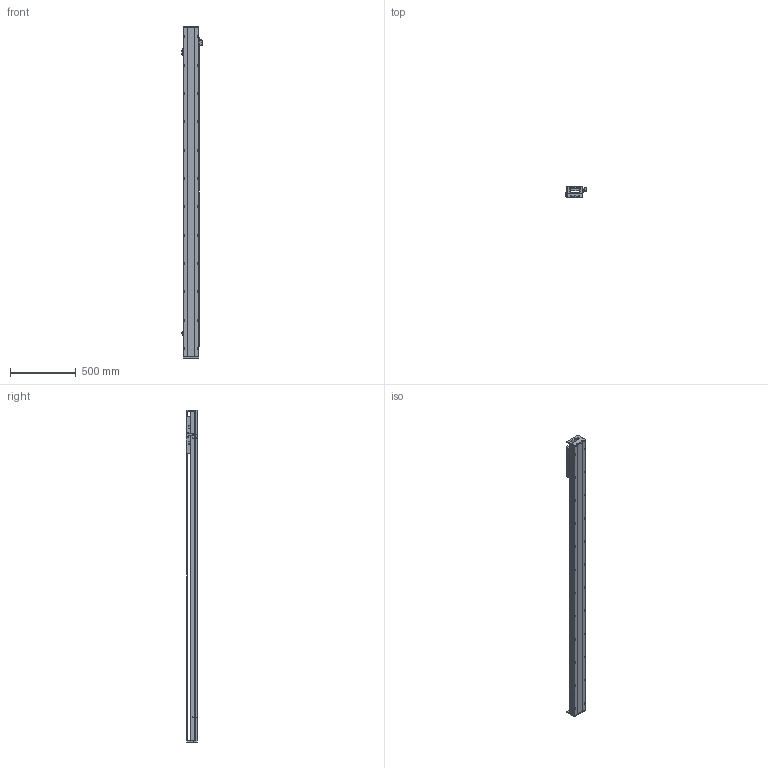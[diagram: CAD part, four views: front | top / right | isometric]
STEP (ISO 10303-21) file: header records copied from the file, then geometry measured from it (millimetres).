
FILE_DESCRIPTION (( 'STEP AP203' ), '1' );
FILE_NAME ('SKR12S-C2-S2152（简）.STEP', '2022-09-26T05:38:26', ( '' ), ( '' ), 'SwSTEP 2.0', 'SolidWorks 2018', '' );
FILE_SCHEMA (( 'CONFIG_CONTROL_DESIGN' ));
Length unit declared in the file: millimetre
Products named in the file (8): SKR12耜啣; SKR12S-C2-S2152（简）; SIKO棠掑; SKR12滑台-280L（简）; EE-SX672; 棠掑假蚾輸; SKR12菁釱-C2-S2152(潠); 覜茼え
Assembly tree (10 placements, depth 2):
  SKR12S-C2-S2152（简）
    SKR12菁釱-C2-S2152(潠)
    SKR12滑台-280L（简）
    SKR12耜啣  x2
    棠掑假蚾輸
    SIKO棠掑
    EE-SX672  x3
    覜茼え
Bounding box: 162.7 x 87.3 x 2532 mm (x, y, z)
Volume: 11095109.3 mm3; surface area: 1729532.4 mm2
Topology: 11 solids, 11 shells, 1140 faces, 3059 edges, 1929 vertices
Faces by surface type: cylinder 558, plane 424, cone 158
Entity records: 32373 total; most frequent: CARTESIAN_POINT 7099, DIRECTION 5207, ORIENTED_EDGE 5034, EDGE_CURVE 2517, AXIS2_PLACEMENT_3D 1949, VERTEX_POINT 1633, LINE 1309, VECTOR 1309
